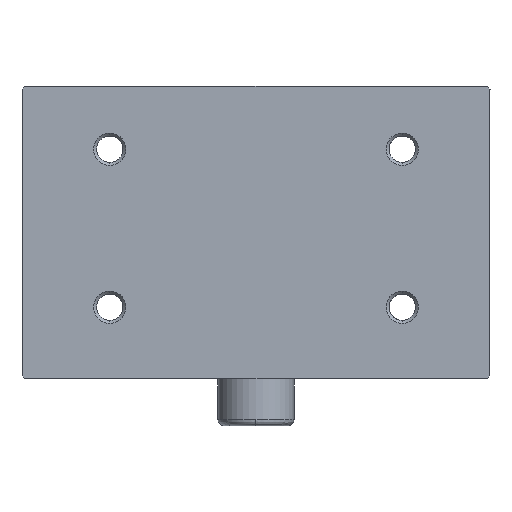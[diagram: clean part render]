
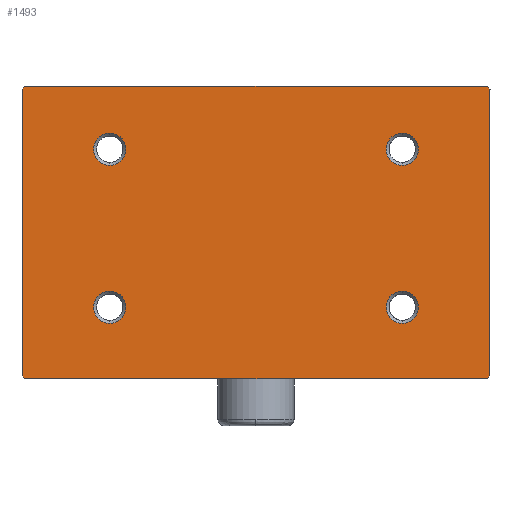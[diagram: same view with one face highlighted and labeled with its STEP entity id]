
A CAD part, front view. The second image highlights one B-rep face of the part: STEP entity #1493.
In plain terms, the highlighted planar face has unit normal (0, -1, 0).
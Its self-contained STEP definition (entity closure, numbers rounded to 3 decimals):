
#43 = ORIENTED_EDGE ( 'NONE', *, *, #4472, .T. ) ;
#62 = DIRECTION ( 'NONE',  ( -0.707, 0., 0.707 ) ) ;
#222 = DIRECTION ( 'NONE',  ( 0., 1., 0. ) ) ;
#240 = ORIENTED_EDGE ( 'NONE', *, *, #4898, .T. ) ;
#268 = EDGE_LOOP ( 'NONE', ( #2035, #1605 ) ) ;
#299 = ORIENTED_EDGE ( 'NONE', *, *, #4910, .T. ) ;
#335 = VERTEX_POINT ( 'NONE', #2265 ) ;
#356 = CARTESIAN_POINT ( 'NONE',  ( -285.157, -2.125, 144.77 ) ) ;
#395 = ORIENTED_EDGE ( 'NONE', *, *, #4873, .T. ) ;
#417 = FACE_BOUND ( 'NONE', #3905, .T. ) ;
#484 = ORIENTED_EDGE ( 'NONE', *, *, #4924, .T. ) ;
#498 = CARTESIAN_POINT ( 'NONE',  ( -220.157, -2.125, 107.52 ) ) ;
#503 = DIRECTION ( 'NONE',  ( 0., 1., 0. ) ) ;
#518 = CARTESIAN_POINT ( 'NONE',  ( -205.657, -2.125, 145.27 ) ) ;
#524 = DIRECTION ( 'NONE',  ( 0., 0., -1. ) ) ;
#533 = CARTESIAN_POINT ( 'NONE',  ( -270.157, -2.125, 131.77 ) ) ;
#643 = VERTEX_POINT ( 'NONE', #3513 ) ;
#648 = DIRECTION ( 'NONE',  ( 0., 1., 0. ) ) ;
#660 = DIRECTION ( 'NONE',  ( 0.707, 0., 0.707 ) ) ;
#782 = CIRCLE ( 'NONE', #2595, 2.75 ) ;
#816 = DIRECTION ( 'NONE',  ( 0., 0., -1. ) ) ;
#862 = CARTESIAN_POINT ( 'NONE',  ( -220.157, -2.125, 104.77 ) ) ;
#865 = CARTESIAN_POINT ( 'NONE',  ( -205.657, -2.125, 95.27 ) ) ;
#869 = ORIENTED_EDGE ( 'NONE', *, *, #4900, .T. ) ;
#892 = VERTEX_POINT ( 'NONE', #4217 ) ;
#906 = ORIENTED_EDGE ( 'NONE', *, *, #4460, .T. ) ;
#934 = CIRCLE ( 'NONE', #2560, 2.75 ) ;
#1070 = VECTOR ( 'NONE', #4703, 1000. ) ;
#1111 = ORIENTED_EDGE ( 'NONE', *, *, #4901, .T. ) ;
#1129 = ORIENTED_EDGE ( 'NONE', *, *, #3245, .T. ) ;
#1131 = VECTOR ( 'NONE', #4548, 1000. ) ;
#1140 = VERTEX_POINT ( 'NONE', #4757 ) ;
#1154 = VECTOR ( 'NONE', #2203, 1000. ) ;
#1162 = DIRECTION ( 'NONE',  ( 0., 0., -1. ) ) ;
#1185 = LINE ( 'NONE', #3200, #1070 ) ;
#1200 = VECTOR ( 'NONE', #5233, 1000. ) ;
#1256 = LINE ( 'NONE', #1411, #1154 ) ;
#1265 = LINE ( 'NONE', #2403, #1131 ) ;
#1280 = LINE ( 'NONE', #3232, #1200 ) ;
#1288 = CIRCLE ( 'NONE', #1790, 2.75 ) ;
#1337 = CIRCLE ( 'NONE', #1789, 2.75 ) ;
#1411 = CARTESIAN_POINT ( 'NONE',  ( -285.457, -2.125, 95.27 ) ) ;
#1422 = CIRCLE ( 'NONE', #1792, 2.75 ) ;
#1431 = VECTOR ( 'NONE', #62, 1000. ) ;
#1493 = ADVANCED_FACE ( 'NONE', ( #4573, #5561, #417, #5392, #2459 ), #5325, .T. ) ;
#1579 = CIRCLE ( 'NONE', #1797, 2.75 ) ;
#1605 = ORIENTED_EDGE ( 'NONE', *, *, #4903, .T. ) ;
#1643 = LINE ( 'NONE', #3459, #1431 ) ;
#1646 = VECTOR ( 'NONE', #5913, 1000. ) ;
#1659 = ORIENTED_EDGE ( 'NONE', *, *, #4771, .T. ) ;
#1677 = CARTESIAN_POINT ( 'NONE',  ( -220.157, -2.125, 107.52 ) ) ;
#1789 = AXIS2_PLACEMENT_3D ( 'NONE', #6239, #222, #4477 ) ;
#1790 = AXIS2_PLACEMENT_3D ( 'NONE', #1677, #4274, #816 ) ;
#1792 = AXIS2_PLACEMENT_3D ( 'NONE', #3288, #5860, #1162 ) ;
#1797 = AXIS2_PLACEMENT_3D ( 'NONE', #4505, #648, #3713 ) ;
#1836 = CARTESIAN_POINT ( 'NONE',  ( -284.657, -2.125, 145.27 ) ) ;
#1868 = LINE ( 'NONE', #1836, #1646 ) ;
#1897 = AXIS2_PLACEMENT_3D ( 'NONE', #5215, #5223, #5243 ) ;
#1904 = AXIS2_PLACEMENT_3D ( 'NONE', #5130, #5134, #5137 ) ;
#1999 = CARTESIAN_POINT ( 'NONE',  ( -284.657, -2.125, 95.27 ) ) ;
#2015 = CARTESIAN_POINT ( 'NONE',  ( -205.157, -2.125, 95.77 ) ) ;
#2034 = CARTESIAN_POINT ( 'NONE',  ( -285.157, -2.125, 95.77 ) ) ;
#2035 = ORIENTED_EDGE ( 'NONE', *, *, #3296, .T. ) ;
#2176 = VERTEX_POINT ( 'NONE', #2015 ) ;
#2177 = CARTESIAN_POINT ( 'NONE',  ( -285.157, -2.125, 95.77 ) ) ;
#2193 = CARTESIAN_POINT ( 'NONE',  ( -270.157, -2.125, 104.77 ) ) ;
#2203 = DIRECTION ( 'NONE',  ( 1., 0., 0. ) ) ;
#2216 = VERTEX_POINT ( 'NONE', #1999 ) ;
#2265 = CARTESIAN_POINT ( 'NONE',  ( -220.157, -2.125, 131.77 ) ) ;
#2396 = ORIENTED_EDGE ( 'NONE', *, *, #4888, .T. ) ;
#2403 = CARTESIAN_POINT ( 'NONE',  ( -205.157, -2.125, 95.27 ) ) ;
#2459 = FACE_BOUND ( 'NONE', #3130, .T. ) ;
#2560 = AXIS2_PLACEMENT_3D ( 'NONE', #5064, #5107, #5154 ) ;
#2595 = AXIS2_PLACEMENT_3D ( 'NONE', #498, #503, #524 ) ;
#2648 = VERTEX_POINT ( 'NONE', #862 ) ;
#2676 = ORIENTED_EDGE ( 'NONE', *, *, #4921, .T. ) ;
#2846 = AXIS2_PLACEMENT_3D ( 'NONE', #5269, #5263, #5192 ) ;
#2956 = VERTEX_POINT ( 'NONE', #518 ) ;
#3033 = CIRCLE ( 'NONE', #1904, 2.75 ) ;
#3130 = EDGE_LOOP ( 'NONE', ( #43, #240 ) ) ;
#3200 = CARTESIAN_POINT ( 'NONE',  ( -285.457, -2.125, 145.27 ) ) ;
#3232 = CARTESIAN_POINT ( 'NONE',  ( -285.157, -2.125, 95.27 ) ) ;
#3245 = EDGE_CURVE ( 'NONE', #2648, #5936, #782, .T. ) ;
#3288 = CARTESIAN_POINT ( 'NONE',  ( -220.157, -2.125, 134.52 ) ) ;
#3296 = EDGE_CURVE ( 'NONE', #4423, #4817, #934, .T. ) ;
#3459 = CARTESIAN_POINT ( 'NONE',  ( -205.157, -2.125, 144.77 ) ) ;
#3513 = CARTESIAN_POINT ( 'NONE',  ( -205.157, -2.125, 144.77 ) ) ;
#3560 = CARTESIAN_POINT ( 'NONE',  ( -220.157, -2.125, 110.27 ) ) ;
#3624 = VERTEX_POINT ( 'NONE', #4632 ) ;
#3713 = DIRECTION ( 'NONE',  ( 0., 0., -1. ) ) ;
#3823 = LINE ( 'NONE', #865, #3951 ) ;
#3897 = VERTEX_POINT ( 'NONE', #356 ) ;
#3905 = EDGE_LOOP ( 'NONE', ( #1129, #1111 ) ) ;
#3951 = VECTOR ( 'NONE', #660, 1000. ) ;
#4001 = VECTOR ( 'NONE', #5319, 1000. ) ;
#4020 = LINE ( 'NONE', #2034, #4001 ) ;
#4023 = VERTEX_POINT ( 'NONE', #533 ) ;
#4034 = ORIENTED_EDGE ( 'NONE', *, *, #4911, .T. ) ;
#4217 = CARTESIAN_POINT ( 'NONE',  ( -220.157, -2.125, 137.27 ) ) ;
#4274 = DIRECTION ( 'NONE',  ( 0., 1., 0. ) ) ;
#4309 = EDGE_LOOP ( 'NONE', ( #906, #869 ) ) ;
#4423 = VERTEX_POINT ( 'NONE', #2193 ) ;
#4460 = EDGE_CURVE ( 'NONE', #335, #892, #3033, .T. ) ;
#4472 = EDGE_CURVE ( 'NONE', #4023, #4807, #4564, .T. ) ;
#4477 = DIRECTION ( 'NONE',  ( 0., 0., -1. ) ) ;
#4505 = CARTESIAN_POINT ( 'NONE',  ( -270.157, -2.125, 134.52 ) ) ;
#4548 = DIRECTION ( 'NONE',  ( 0., 0., 1. ) ) ;
#4564 = CIRCLE ( 'NONE', #1897, 2.75 ) ;
#4573 = FACE_OUTER_BOUND ( 'NONE', #5700, .T. ) ;
#4632 = CARTESIAN_POINT ( 'NONE',  ( -284.657, -2.125, 145.27 ) ) ;
#4703 = DIRECTION ( 'NONE',  ( -1., 0., 0. ) ) ;
#4752 = EDGE_CURVE ( 'NONE', #6124, #2216, #4020, .T. ) ;
#4757 = CARTESIAN_POINT ( 'NONE',  ( -205.657, -2.125, 95.27 ) ) ;
#4771 = EDGE_CURVE ( 'NONE', #1140, #2176, #3823, .T. ) ;
#4807 = VERTEX_POINT ( 'NONE', #6017 ) ;
#4817 = VERTEX_POINT ( 'NONE', #5769 ) ;
#4873 = EDGE_CURVE ( 'NONE', #3624, #3897, #1868, .T. ) ;
#4888 = EDGE_CURVE ( 'NONE', #643, #2956, #1643, .T. ) ;
#4898 = EDGE_CURVE ( 'NONE', #4807, #4023, #1579, .T. ) ;
#4900 = EDGE_CURVE ( 'NONE', #892, #335, #1422, .T. ) ;
#4901 = EDGE_CURVE ( 'NONE', #5936, #2648, #1288, .T. ) ;
#4903 = EDGE_CURVE ( 'NONE', #4817, #4423, #1337, .T. ) ;
#4910 = EDGE_CURVE ( 'NONE', #3897, #6124, #1280, .T. ) ;
#4911 = EDGE_CURVE ( 'NONE', #2216, #1140, #1256, .T. ) ;
#4921 = EDGE_CURVE ( 'NONE', #2176, #643, #1265, .T. ) ;
#4924 = EDGE_CURVE ( 'NONE', #2956, #3624, #1185, .T. ) ;
#5064 = CARTESIAN_POINT ( 'NONE',  ( -270.157, -2.125, 107.52 ) ) ;
#5107 = DIRECTION ( 'NONE',  ( 0., 1., 0. ) ) ;
#5130 = CARTESIAN_POINT ( 'NONE',  ( -220.157, -2.125, 134.52 ) ) ;
#5134 = DIRECTION ( 'NONE',  ( 0., 1., 0. ) ) ;
#5137 = DIRECTION ( 'NONE',  ( 0., 0., -1. ) ) ;
#5154 = DIRECTION ( 'NONE',  ( 0., 0., -1. ) ) ;
#5192 = DIRECTION ( 'NONE',  ( 0., 0., -1. ) ) ;
#5215 = CARTESIAN_POINT ( 'NONE',  ( -270.157, -2.125, 134.52 ) ) ;
#5223 = DIRECTION ( 'NONE',  ( 0., 1., 0. ) ) ;
#5233 = DIRECTION ( 'NONE',  ( 0., 0., -1. ) ) ;
#5243 = DIRECTION ( 'NONE',  ( 0., 0., -1. ) ) ;
#5263 = DIRECTION ( 'NONE',  ( 0., -1., 0. ) ) ;
#5269 = CARTESIAN_POINT ( 'NONE',  ( -285.457, -2.125, 95.27 ) ) ;
#5319 = DIRECTION ( 'NONE',  ( 0.707, 0., -0.707 ) ) ;
#5325 = PLANE ( 'NONE',  #2846 ) ;
#5392 = FACE_BOUND ( 'NONE', #4309, .T. ) ;
#5561 = FACE_BOUND ( 'NONE', #268, .T. ) ;
#5700 = EDGE_LOOP ( 'NONE', ( #484, #395, #299, #6254, #4034, #1659, #2676, #2396 ) ) ;
#5769 = CARTESIAN_POINT ( 'NONE',  ( -270.157, -2.125, 110.27 ) ) ;
#5860 = DIRECTION ( 'NONE',  ( 0., 1., 0. ) ) ;
#5913 = DIRECTION ( 'NONE',  ( -0.707, 0., -0.707 ) ) ;
#5936 = VERTEX_POINT ( 'NONE', #3560 ) ;
#6017 = CARTESIAN_POINT ( 'NONE',  ( -270.157, -2.125, 137.27 ) ) ;
#6124 = VERTEX_POINT ( 'NONE', #2177 ) ;
#6239 = CARTESIAN_POINT ( 'NONE',  ( -270.157, -2.125, 107.52 ) ) ;
#6254 = ORIENTED_EDGE ( 'NONE', *, *, #4752, .T. ) ;
